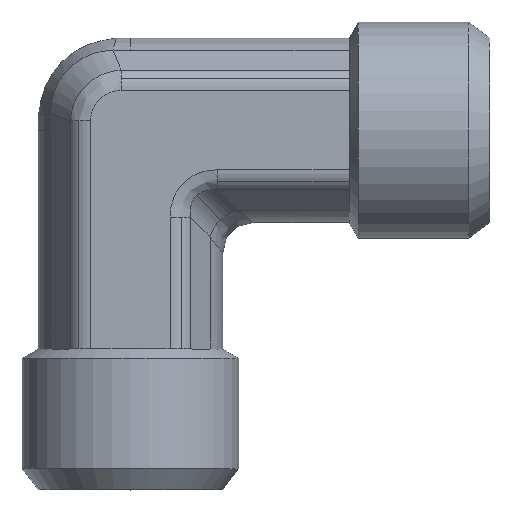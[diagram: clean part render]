
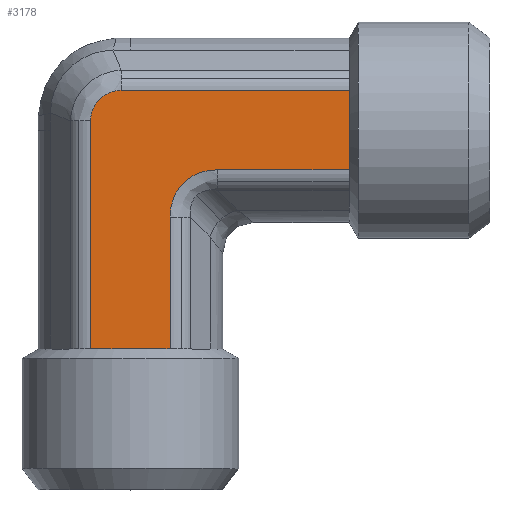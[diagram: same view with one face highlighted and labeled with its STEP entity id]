
A CAD part, top view. The second image highlights one B-rep face of the part: STEP entity #3178.
In plain terms, the highlighted planar face has unit normal (0, 0, 1) as drawn and (0, -1, 0) by its records, which use the part's own axes.
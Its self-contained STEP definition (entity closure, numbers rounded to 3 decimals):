
#361=CARTESIAN_POINT('',(1.071,-5.9,2.54));
#362=VERTEX_POINT('',#361);
#370=CARTESIAN_POINT('',(9.5,-5.9,2.54));
#371=VERTEX_POINT('',#370);
#372=CARTESIAN_POINT('',(1.071,-5.9,2.54));
#373=DIRECTION('',(1.0,0.0,0.0));
#374=VECTOR('',#373,8.429);
#375=LINE('',#372,#374);
#376=EDGE_CURVE('',#362,#371,#375,.T.);
#485=CARTESIAN_POINT('',(-7.04,-5.9,-0.585));
#486=VERTEX_POINT('',#485);
#494=CARTESIAN_POINT('',(-7.04,-5.9,14.0));
#495=VERTEX_POINT('',#494);
#496=CARTESIAN_POINT('',(-7.04,-5.9,-0.585));
#497=DIRECTION('',(0.0,0.0,1.0));
#498=VECTOR('',#497,14.585);
#499=LINE('',#496,#498);
#500=EDGE_CURVE('',#486,#495,#499,.T.);
#776=CARTESIAN_POINT('',(9.5,-5.9,0.));
#777=VERTEX_POINT('',#776);
#1928=CARTESIAN_POINT('',(-4.5,-5.9,14.0));
#1929=VERTEX_POINT('',#1928);
#2162=CARTESIAN_POINT('',(-4.5,-5.9,14.0));
#2163=DIRECTION('',(-1.0,0.0,0.0));
#2164=VECTOR('',#2163,2.54);
#2165=LINE('',#2162,#2164);
#2166=EDGE_CURVE('',#1929,#495,#2165,.T.);
#2239=CARTESIAN_POINT('',(-1.96,-5.9,14.0));
#2240=VERTEX_POINT('',#2239);
#2241=CARTESIAN_POINT('',(-1.96,-5.9,14.0));
#2242=DIRECTION('',(-1.0,0.0,0.0));
#2243=VECTOR('',#2242,2.54);
#2244=LINE('',#2241,#2243);
#2245=EDGE_CURVE('',#2240,#1929,#2244,.T.);
#2371=CARTESIAN_POINT('',(9.5,-5.9,-2.54));
#2372=VERTEX_POINT('',#2371);
#2373=CARTESIAN_POINT('',(9.5,-5.9,-2.54));
#2374=DIRECTION('',(0.0,0.0,1.0));
#2375=VECTOR('',#2374,2.54);
#2376=LINE('',#2373,#2375);
#2377=EDGE_CURVE('',#2372,#777,#2376,.T.);
#2418=CARTESIAN_POINT('',(9.5,-5.9,0.));
#2419=DIRECTION('',(0.0,0.0,1.0));
#2420=VECTOR('',#2419,2.54);
#2421=LINE('',#2418,#2420);
#2422=EDGE_CURVE('',#777,#371,#2421,.T.);
#2862=CARTESIAN_POINT('',(-5.085,-5.9,-2.54));
#2863=VERTEX_POINT('',#2862);
#2871=CARTESIAN_POINT('',(-7.04,-5.9,-0.585));
#2872=CARTESIAN_POINT('',(-7.04,-5.9,-0.712));
#2873=CARTESIAN_POINT('',(-7.027,-5.9,-0.841));
#2874=CARTESIAN_POINT('',(-6.961,-5.9,-1.168));
#2875=CARTESIAN_POINT('',(-6.889,-5.9,-1.36));
#2876=CARTESIAN_POINT('',(-6.626,-5.9,-1.825));
#2877=CARTESIAN_POINT('',(-6.394,-5.9,-2.068));
#2878=CARTESIAN_POINT('',(-5.806,-5.9,-2.436));
#2879=CARTESIAN_POINT('',(-5.446,-5.9,-2.54));
#2880=CARTESIAN_POINT('',(-5.085,-5.9,-2.54));
#2881=B_SPLINE_CURVE_WITH_KNOTS('',3,(#2871,#2872,#2873,#2874,#2875,#2876,#2877,#2878,#2879,#2880),.UNSPECIFIED.,.F.,.U.,(4,2,2,2,4),(-3.052,-2.67,-2.06,-1.083,0.0),.UNSPECIFIED.);
#2882=EDGE_CURVE('',#2863,#486,#2881,.F.);
#2909=CARTESIAN_POINT('',(9.5,-5.9,-2.54));
#2910=DIRECTION('',(-1.0,0.0,0.0));
#2911=VECTOR('',#2910,14.585);
#2912=LINE('',#2909,#2911);
#2913=EDGE_CURVE('',#2372,#2863,#2912,.T.);
#3045=CARTESIAN_POINT('',(-1.96,-5.9,5.571));
#3046=VERTEX_POINT('',#3045);
#3047=CARTESIAN_POINT('',(-1.96,-5.9,14.0));
#3048=DIRECTION('',(0.0,0.0,-1.0));
#3049=VECTOR('',#3048,8.429);
#3050=LINE('',#3047,#3049);
#3051=EDGE_CURVE('',#2240,#3046,#3050,.T.);
#3134=CARTESIAN_POINT('',(2.082,-5.9,6.582));
#3135=DIRECTION('',(0.,-1.0,0.));
#3136=DIRECTION('',(-0.707,0.,-0.707));
#3137=AXIS2_PLACEMENT_3D('',#3134,#3135,#3136);
#3138=ELLIPSE('',#3137,4.518,3.5);
#3139=EDGE_CURVE('',#3046,#362,#3138,.T.);
#3161=CARTESIAN_POINT('',(-4.5,-5.9,-3.175));
#3162=DIRECTION('',(0.0,-1.0,0.0));
#3163=DIRECTION('',(0.0,0.0,-1.0));
#3164=AXIS2_PLACEMENT_3D('',#3161,#3162,#3163);
#3165=PLANE('',#3164);
#3166=ORIENTED_EDGE('',*,*,#2913,.F.);
#3167=ORIENTED_EDGE('',*,*,#2377,.T.);
#3168=ORIENTED_EDGE('',*,*,#2422,.T.);
#3169=ORIENTED_EDGE('',*,*,#376,.F.);
#3170=ORIENTED_EDGE('',*,*,#3139,.F.);
#3171=ORIENTED_EDGE('',*,*,#3051,.F.);
#3172=ORIENTED_EDGE('',*,*,#2245,.T.);
#3173=ORIENTED_EDGE('',*,*,#2166,.T.);
#3174=ORIENTED_EDGE('',*,*,#500,.F.);
#3175=ORIENTED_EDGE('',*,*,#2882,.F.);
#3176=EDGE_LOOP('',(#3166,#3167,#3168,#3169,#3170,#3171,#3172,#3173,#3174,#3175));
#3177=FACE_OUTER_BOUND('',#3176,.T.);
#3178=ADVANCED_FACE('',(#3177),#3165,.T.);
